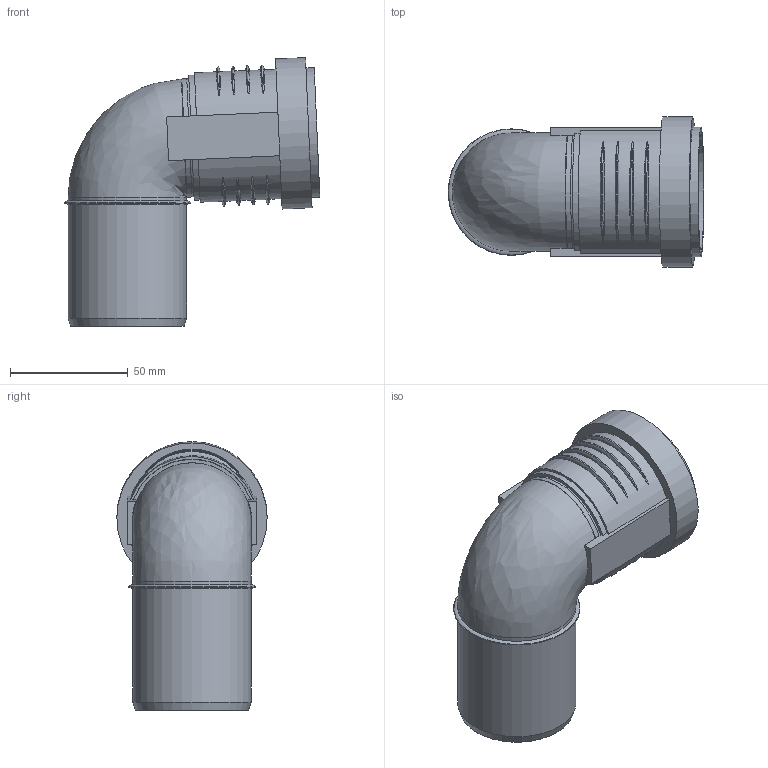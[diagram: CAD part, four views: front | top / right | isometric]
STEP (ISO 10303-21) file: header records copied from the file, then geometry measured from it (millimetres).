
FILE_DESCRIPTION(/* description */ (''),/* implementation_level */ '2;1');
FILE_NAME(/* name */ 'Z:\Geberit\Export\NewStep\390224.stp',/* time_stamp */ '2014-04-02T08:10:12+02:00',/* author */ ('ML'),/* organization */ (''),/* preprocessor_version */ 'ST-DEVELOPER v15.2',/* originating_system */ 'Autodesk Inventor 2014',/* authorisation */ '');
FILE_SCHEMA (('AUTOMOTIVE_DESIGN { 1 0 10303 214 3 1 1 }'));
Length unit declared in the file: millimetre
Products named in the file (3): 861325; 861401; 390224
Bounding box: 108.42 x 63.7 x 113.95 mm (x, y, z)
Volume: 54338.8 mm3; surface area: 55056.8 mm2
Topology: 2 solids, 2 shells, 68 faces, 162 edges, 109 vertices
Faces by surface type: torus 28, plane 19, cylinder 18, cone 2, bspline 1
Full cylindrical faces by diameter (mm): 46.15 x3, 50.15 x4, 51 x2, 55 x1, 59.7 x1, 63.7 x1
Entity records: 2630 total; most frequent: CARTESIAN_POINT 1054, DIRECTION 290, ORIENTED_EDGE 278, EDGE_CURVE 139, AXIS2_PLACEMENT_3D 127, VERTEX_POINT 106, EDGE_LOOP 103, STYLED_ITEM 70
